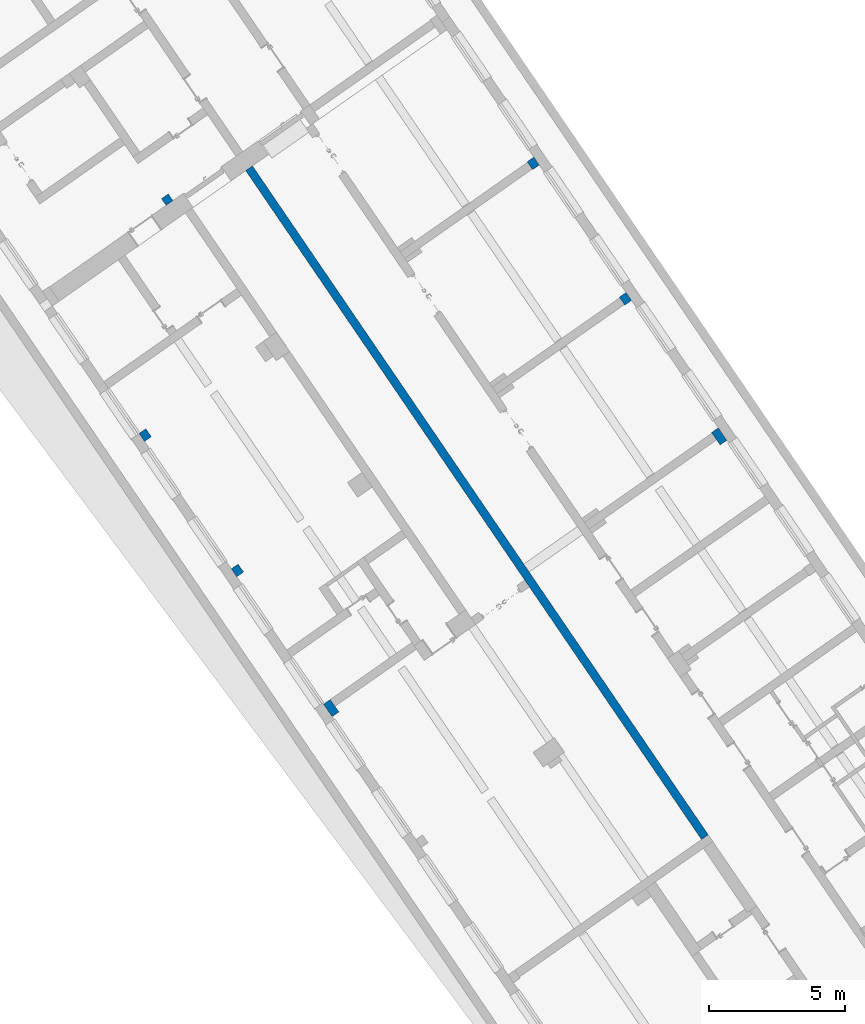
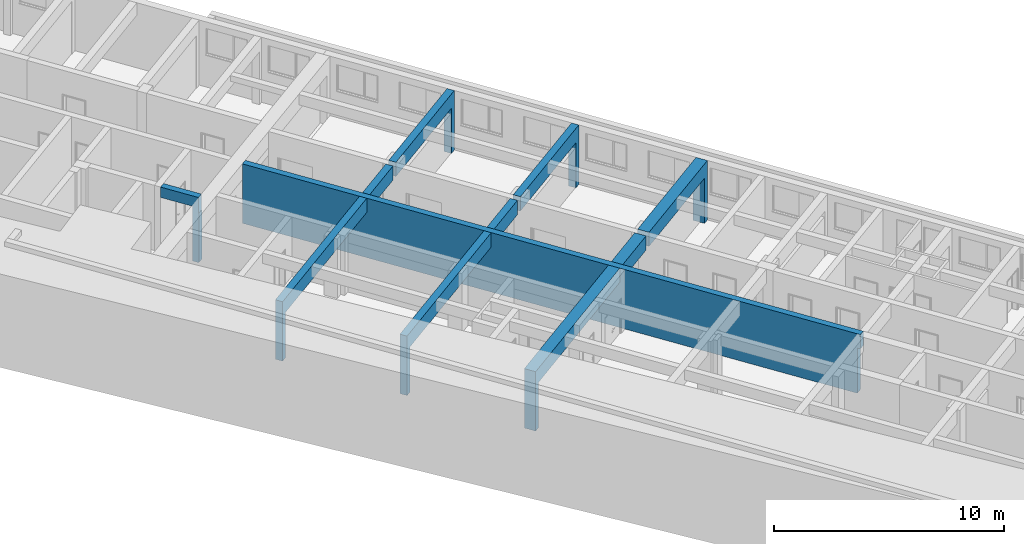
# One storey, part 103 of 112: 5 walls.
"""IFC2X3 building model written with IfcOpenShell, lengths in millimetres."""

import ifcopenshell
import ifcopenshell.guid

model = None  # the IFC model being written
_history = None  # IfcOwnerHistory: only IFC2X3 demands one
_inside = {}  # id of a spatial element -> (the spatial element, [elements in it])
_under = {}  # id of a project, library or spatial element -> (it, [spatial elements below it])
_declared = {}  # id of a project -> (the project, [libraries it declares])
_typed = {}  # id of a type object -> (the type object, [elements of that type])
_made_of = {}  # id of a material, layer set ... -> (it, [elements and type objects made of it])


def new_model(schema):
    """Start an empty IFC model of exactly this schema.

    Asked for "IFC4X3", IfcOpenShell would pick the latest addendum, in which some entities
    have other attributes; the version numbers below select the first issue.
    IFC2X3 requires an IfcOwnerHistory on every rooted entity: one is made here for all.
    """
    global model, _history
    if schema == "IFC4X3":
        model = ifcopenshell.file(schema_version=(4, 3, 0, 0))
    else:
        model = ifcopenshell.file(schema=schema)
    _inside.clear()
    _under.clear()
    _declared.clear()
    _typed.clear()
    _made_of.clear()
    _history = None
    if model.schema == "IFC2X3":
        org = make("IfcOrganization", Name="unknown")
        user = make(
            "IfcPersonAndOrganization",
            ThePerson=make("IfcPerson", FamilyName="unknown"),
            TheOrganization=org,
        )
        app = make(
            "IfcApplication",
            ApplicationDeveloper=org,
            Version="unknown",
            ApplicationFullName="unknown",
            ApplicationIdentifier="unknown",
        )
        _history = make(
            "IfcOwnerHistory",
            OwningUser=user,
            OwningApplication=app,
            ChangeAction="ADDED",
            CreationDate=0,
        )
    return model


def make(cls, **values):
    """One entity of the class cls with the attributes given. An attribute that is None is left unset."""
    return model.create_entity(
        cls, **{name: value for name, value in values.items() if value is not None}
    )


def entity(cls, *values):
    """Any entity or typed value of the class cls, its attributes in the order of the schema. None: left unset."""
    e = model.create_entity(cls)
    for i, value in enumerate(values):
        if value is not None:
            e[i] = value
    return e


def rooted(cls, **values):
    """An entity with a GlobalId (a new one), such as an element, a storey or a relation."""
    return make(cls, GlobalId=ifcopenshell.guid.new(), OwnerHistory=_history, **values)


def si_unit(unit_type, name, prefix=None):
    """IfcSIUnit, for example si_unit("LENGTHUNIT", "METRE", prefix="MILLI")."""
    return make("IfcSIUnit", UnitType=unit_type, Prefix=prefix, Name=name)


def converted_unit(unit_type, name, factor, base, dimensions=None, offset=None):
    """IfcConversionBasedUnit, such as the inch: factor (a typed value) times the base unit."""
    return make(
        "IfcConversionBasedUnit"
        if offset is None
        else "IfcConversionBasedUnitWithOffset",
        ConversionOffset=offset,
        Dimensions=None
        if dimensions is None
        else entity("IfcDimensionalExponents", *dimensions),
        UnitType=unit_type,
        Name=name,
        ConversionFactor=make(
            "IfcMeasureWithUnit", ValueComponent=factor, UnitComponent=base
        ),
    )


def derived_unit(unit_type, elements):
    """IfcDerivedUnit: a product of units, each with its exponent."""
    return make(
        "IfcDerivedUnit",
        Elements=[
            make("IfcDerivedUnitElement", Unit=unit, Exponent=power)
            for unit, power in elements
        ],
        UnitType=unit_type,
    )


def assignment(units):
    """IfcUnitAssignment: the units of a project."""
    return None if units is None else make("IfcUnitAssignment", Units=units)


def point(xyz):
    """IfcCartesianPoint."""
    return None if xyz is None else make("IfcCartesianPoint", Coordinates=xyz)


def direction(xyz):
    """IfcDirection."""
    return None if xyz is None else make("IfcDirection", DirectionRatios=xyz)


def frame(location, z_axis=None, x_axis=None):
    """IfcAxis2Placement3D, a coordinate frame: its origin and axes. An axis left out is left unset."""
    return make(
        "IfcAxis2Placement3D",
        Location=point(location),
        Axis=direction(z_axis),
        RefDirection=direction(x_axis),
    )


def origin():
    """The frame at (0, 0, 0) with its axes left unset."""
    return frame((0.0, 0.0, 0.0))


def place(relative_to, where):
    """IfcLocalPlacement: puts the frame where relative to a parent placement (None: the world)."""
    return make(
        "IfcLocalPlacement", PlacementRelTo=relative_to, RelativePlacement=where
    )


def context(
    kind, dimensions, precision=None, world=None, true_north=None, identifier=None
):
    """IfcGeometricRepresentationContext, for example the 3D "Model" context."""
    return make(
        "IfcGeometricRepresentationContext",
        ContextIdentifier=identifier,
        ContextType=kind,
        CoordinateSpaceDimension=dimensions,
        Precision=precision,
        WorldCoordinateSystem=world,
        TrueNorth=true_north,
    )


def subcontext(parent, identifier, kind, view, scale=None):
    """IfcGeometricRepresentationSubContext, for example "Body" below "Model"."""
    return make(
        "IfcGeometricRepresentationSubContext",
        ContextIdentifier=identifier,
        ContextType=kind,
        ParentContext=parent,
        TargetScale=scale,
        TargetView=view,
    )


def project(units=None, contexts=None):
    """IfcProject with its units and contexts."""
    return rooted(
        "IfcProject",
        Name="project",
        RepresentationContexts=contexts,
        UnitsInContext=assignment(units),
    )


def spatial(cls, under=None, at=None, **own):
    """A site, building, storey or space (cls), placed at a placement, below another one or the project."""
    s = rooted(cls, ObjectPlacement=at, **own)
    if under is not None:
        _under.setdefault(under.id(), (under, []))[1].append(s)
    return s


def faces_of(points, faces, orient=None, outer=None):
    """IfcFace entities. A face is a list of loops; a loop is a list of indices into points, from 0.

    orient and outer hold one flag for each loop. By default every Orientation is true, the
    first loop of a face is its IfcFaceOuterBound and the others are IfcFaceBound.
    """
    made = []
    for i, loops in enumerate(faces):
        bounds = []
        for j, loop in enumerate(loops):
            is_outer = j == 0 if outer is None else outer[i][j]
            bounds.append(
                make(
                    "IfcFaceOuterBound" if is_outer else "IfcFaceBound",
                    Bound=make("IfcPolyLoop", Polygon=[points[k] for k in loop]),
                    Orientation=True if orient is None else orient[i][j],
                )
            )
        made.append(make("IfcFace", Bounds=bounds))
    return made


def faceted_brep(points, faces, orient=None, outer=None, voids=None):
    """IfcFacetedBrep: a solid bounded by flat faces; with voids (closed shells), ...WithVoids."""
    shared = [point(p) for p in points]
    hull = make("IfcClosedShell", CfsFaces=faces_of(shared, faces, orient, outer))
    if voids is None:
        return make("IfcFacetedBrep", Outer=hull)
    return make(
        "IfcFacetedBrepWithVoids",
        Outer=hull,
        Voids=[
            make(cls, CfsFaces=faces_of(shared, fs, o, b)) for cls, fs, o, b in voids
        ],
    )


def shape(context_of_items, identifier, shape_type, items):
    """IfcShapeRepresentation: the items that make up one representation, for example the "Body"."""
    return make(
        "IfcShapeRepresentation",
        ContextOfItems=context_of_items,
        RepresentationIdentifier=identifier,
        RepresentationType=shape_type,
        Items=items,
    )


def material(Name=None, Category=None):
    """IfcMaterial."""
    return make("IfcMaterial", Name=Name, Category=Category)


def layer(
    of_material, thickness, ventilated=None, Name=None, Category=None, Priority=None
):
    """IfcMaterialLayer: one layer of a wall or slab, of a material (None: an air gap)."""
    return make(
        "IfcMaterialLayer",
        Material=of_material,
        LayerThickness=thickness,
        IsVentilated=ventilated,
        Name=Name,
        Category=Category,
        Priority=Priority,
    )


def layer_set(layers, Name=None):
    """IfcMaterialLayerSet."""
    return make("IfcMaterialLayerSet", MaterialLayers=layers, LayerSetName=Name)


def made_of(thing, what):
    """Note that an element or type object is made of a material, layer set ...; save() writes the relation."""
    if what is not None:
        _made_of.setdefault(what.id(), (what, []))[1].append(thing)
    return thing


def type_object(cls, material=None, **own):
    """A type object (cls), such as IfcWallType, which elements share."""
    return made_of(rooted(cls, **own), material)


def element(
    cls,
    number,
    at=None,
    inside=None,
    cuts=None,
    type_object=None,
    material=None,
    context=None,
    identifier="Body",
    shape_type=None,
    held_by="IfcProductDefinitionShape",
    body=None,
    shapes=None,
    **own,
):
    """One element of the class cls, such as IfcWall. Its Tag is "e" and its number.

    at: its placement. inside: the storey or other place that contains it. cuts: it is an
    opening in that element (IfcRelVoidsElement). A single representation is given by context,
    identifier, shape_type and body (its items); several are given by shapes. held_by: the class
    of the entity that holds the representations. save() writes the other relations.
    """
    e = rooted(cls, Tag="e%d" % number, ObjectPlacement=at, **own)
    if body is not None:
        shapes = [shape(context, identifier, shape_type, body)]
    if shapes is not None:
        e.Representation = make(held_by, Representations=shapes)
    if inside is not None:
        _inside.setdefault(inside.id(), (inside, []))[1].append(e)
    if cuts is not None:
        rooted(
            "IfcRelVoidsElement", RelatingBuildingElement=cuts, RelatedOpeningElement=e
        )
    if type_object is not None:
        _typed.setdefault(type_object.id(), (type_object, []))[1].append(e)
    return made_of(e, material)


def aggregate(whole, parts):
    """IfcRelAggregates: a whole, such as a stair, and the parts it consists of."""
    return rooted("IfcRelAggregates", RelatingObject=whole, RelatedObjects=parts)


def save(model, path):
    """Write the relations noted so far, then the file.

    IfcRelAggregates (storeys below a building ...), IfcRelContainedInSpatialStructure (elements
    in a storey), IfcRelDefinesByType, IfcRelAssociatesMaterial and IfcRelDeclares: one each for
    every whole, place, type object, material and project.
    """
    for whole, parts in _under.values():
        aggregate(whole, parts)
    for where, things in _inside.values():
        rooted(
            "IfcRelContainedInSpatialStructure",
            RelatedElements=things,
            RelatingStructure=where,
        )
    for kind, things in _typed.values():
        rooted("IfcRelDefinesByType", RelatedObjects=things, RelatingType=kind)
    for what, things in _made_of.values():
        rooted("IfcRelAssociatesMaterial", RelatedObjects=things, RelatingMaterial=what)
    for by, libraries in _declared.values():
        rooted("IfcRelDeclares", RelatingContext=by, RelatedDefinitions=libraries)
    model.write(path)


model = new_model("IFC2X3")

# Units and contexts
model_context = context("Model", 3, precision=0.01, world=origin(), true_north=direction((6.123031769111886e-17, 1.0)))
body_context = subcontext(model_context, "Body", "Model", "MODEL_VIEW")
ifc_project = project(units=[si_unit("LENGTHUNIT", "METRE", prefix="MILLI"), si_unit("AREAUNIT", "SQUARE_METRE"), si_unit("VOLUMEUNIT", "CUBIC_METRE"), converted_unit("PLANEANGLEUNIT", "DEGREE", entity("IfcRatioMeasure", 0.017453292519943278), si_unit("PLANEANGLEUNIT", "RADIAN"), dimensions=[0, 0, 0, 0, 0, 0, 0]), si_unit("MASSUNIT", "GRAM", prefix="KILO"), derived_unit("MASSDENSITYUNIT", [(si_unit("MASSUNIT", "GRAM", prefix="KILO"), 1), (si_unit("LENGTHUNIT", "METRE"), -3)]), derived_unit("MOMENTOFINERTIAUNIT", [(si_unit("LENGTHUNIT", "METRE"), 4)]), si_unit("TIMEUNIT", "SECOND"), si_unit("FREQUENCYUNIT", "HERTZ"), si_unit("THERMODYNAMICTEMPERATUREUNIT", "DEGREE_CELSIUS"), derived_unit("THERMALTRANSMITTANCEUNIT", [(si_unit("MASSUNIT", "GRAM", prefix="KILO"), 1), (si_unit("THERMODYNAMICTEMPERATUREUNIT", "KELVIN"), -1), (si_unit("TIMEUNIT", "SECOND"), -3)]), derived_unit("THERMALCONDUCTANCEUNIT", [(si_unit("MASSUNIT", "GRAM", prefix="KILO"), 1), (si_unit("LENGTHUNIT", "METRE"), 1), (si_unit("THERMODYNAMICTEMPERATUREUNIT", "KELVIN"), -1), (si_unit("TIMEUNIT", "SECOND"), -3)]), derived_unit("VOLUMETRICFLOWRATEUNIT", [(si_unit("LENGTHUNIT", "METRE"), 3), (si_unit("TIMEUNIT", "SECOND"), -1)]), derived_unit("MASSFLOWRATEUNIT", [(si_unit("MASSUNIT", "GRAM", prefix="KILO"), 1), (si_unit("TIMEUNIT", "SECOND"), -1)]), derived_unit("ROTATIONALFREQUENCYUNIT", [(si_unit("TIMEUNIT", "SECOND"), -1)]), si_unit("ELECTRICCURRENTUNIT", "AMPERE"), si_unit("ELECTRICVOLTAGEUNIT", "VOLT"), si_unit("POWERUNIT", "WATT"), converted_unit("FORCEUNIT", "KIP", entity("IfcRatioMeasure", 2.088543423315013e-05), si_unit("FORCEUNIT", "NEWTON"), dimensions=[1, 1, -2, 0, 0, 0, 0]), si_unit("ILLUMINANCEUNIT", "LUX"), si_unit("LUMINOUSFLUXUNIT", "LUMEN"), si_unit("LUMINOUSINTENSITYUNIT", "CANDELA"), derived_unit("USERDEFINED", [(si_unit("MASSUNIT", "GRAM", prefix="KILO"), -1), (si_unit("LENGTHUNIT", "METRE"), -2), (si_unit("TIMEUNIT", "SECOND"), 3), (si_unit("LUMINOUSFLUXUNIT", "LUMEN"), 1)]), derived_unit("USERDEFINED", [(si_unit("MASSUNIT", "GRAM", prefix="KILO"), 1), (si_unit("LENGTHUNIT", "METRE"), 3), (si_unit("TIMEUNIT", "SECOND"), -3), (si_unit("ELECTRICCURRENTUNIT", "AMPERE"), -2)]), derived_unit("USERDEFINED", [(si_unit("LENGTHUNIT", "METRE"), 2), (si_unit("TIMEUNIT", "SECOND"), -2)]), derived_unit("SOUNDPOWERUNIT", [(si_unit("MASSUNIT", "GRAM", prefix="KILO"), 1), (si_unit("LENGTHUNIT", "METRE"), 2), (si_unit("TIMEUNIT", "SECOND"), -3)]), derived_unit("SOUNDPRESSUREUNIT", [(si_unit("MASSUNIT", "GRAM", prefix="KILO"), 1), (si_unit("LENGTHUNIT", "METRE"), -1), (si_unit("TIMEUNIT", "SECOND"), -2)]), derived_unit("LINEARVELOCITYUNIT", [(si_unit("LENGTHUNIT", "METRE"), 1), (si_unit("TIMEUNIT", "SECOND"), -1)]), si_unit("PRESSUREUNIT", "PASCAL"), derived_unit("USERDEFINED", [(si_unit("LENGTHUNIT", "METRE"), -2), (si_unit("MASSUNIT", "GRAM", prefix="KILO"), 1), (si_unit("TIMEUNIT", "SECOND"), -2)]), derived_unit("LINEARFORCEUNIT", [(si_unit("MASSUNIT", "GRAM", prefix="KILO"), 1), (si_unit("LENGTHUNIT", "METRE"), 1), (si_unit("TIMEUNIT", "SECOND"), -2), (si_unit("LENGTHUNIT", "METRE"), -1)]), derived_unit("PLANARFORCEUNIT", [(si_unit("MASSUNIT", "GRAM", prefix="KILO"), 1), (si_unit("LENGTHUNIT", "METRE"), 1), (si_unit("TIMEUNIT", "SECOND"), -2), (si_unit("LENGTHUNIT", "METRE"), -2)]), derived_unit("SPECIFICHEATCAPACITYUNIT", [(si_unit("LENGTHUNIT", "METRE"), 2), (si_unit("TIMEUNIT", "SECOND"), -2), (si_unit("THERMODYNAMICTEMPERATUREUNIT", "KELVIN"), -1)]), derived_unit("VAPORPERMEABILITYUNIT", [(si_unit("TIMEUNIT", "SECOND"), 1), (si_unit("LENGTHUNIT", "METRE"), -1)]), derived_unit("DYNAMICVISCOSITYUNIT", [(si_unit("MASSUNIT", "GRAM", prefix="KILO"), 1), (si_unit("LENGTHUNIT", "METRE"), -1), (si_unit("TIMEUNIT", "SECOND"), -1)]), derived_unit("THERMALEXPANSIONCOEFFICIENTUNIT", [(si_unit("THERMODYNAMICTEMPERATUREUNIT", "KELVIN"), -1)])], contexts=[model_context])

# Site, building, storey
site_placement = place(None, frame((0.0, 0.0, 0.0), z_axis=(0.0, 0.0, 1.0), x_axis=(0.8191520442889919, 0.5735764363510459, 0.0)))
site = spatial("IfcSite", under=ifc_project, at=site_placement, Name="Default", CompositionType="ELEMENT")
building_placement = place(site_placement, origin())
building = spatial("IfcBuilding", under=site, at=building_placement, CompositionType="ELEMENT")
storey_placement = place(building_placement, frame((0.0, 0.0, -3600.0)))
storey = spatial("IfcBuildingStorey", under=building, at=storey_placement, Name="0.UG -3.60", CompositionType="ELEMENT", Elevation=-3600.0000000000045)

# Walls
ifc_material = material(Name="Analytical Wall Surface_CJC")
ifc_layer_1 = layer(ifc_material, 300.0)
ifc_layer_set_1 = layer_set([ifc_layer_1], Name="Basic Wall:Wand_Innen_30")
wall_type_1 = type_object("IfcWallType", Name="Basic Wall:Wand_Innen_30", PredefinedType="STANDARD", material=ifc_layer_set_1)
wall_1_placement = place(storey_placement, frame((-214485.72137381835, 73421.35891435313, 300.0), z_axis=(0.0, 0.0, 1.0), x_axis=(0.012729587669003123, 0.9999189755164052, 0.0)))
element("IfcWall", 1, at=wall_1_placement, inside=storey, type_object=wall_type_1, Name="Basic Wall:Wand_Innen_30", ObjectType="Basic Wall:Wand_Innen_30", context=body_context, shape_type="Brep", body=[
    faceted_brep([(151.92174753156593, -150.0, 0.0), (29804.324318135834, -150.0, 0.0), (29804.32431813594, -150.0, 3150.0), (24153.866492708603, -150.0, 3150.0), (23803.838131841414, -150.0, 3150.0), (18153.380306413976, -150.0, 3150.0), (17803.351945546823, -150.0, 3150.0), (12152.894120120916, -150.0, 3150.0), (11802.86575925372, -150.0, 3150.0), (11602.849553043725, -150.0, 3150.0), (6152.407933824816, -150.0, 3150.0), (5802.379572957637, -150.0, 3150.0), (0.0, -150.0, 3150.0), (0.0, -150.0, 2400.0), (151.9217475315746, -150.0, 2400.0), (148.10256178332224, 150.0, 0.0), (148.10256178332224, 150.0, 2400.0), (0.0, 150.0, 2400.0), (0.0, 150.0, 3150.0), (5798.560387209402, 150.0, 3150.0), (6148.588748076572, 150.0, 3150.0), (11349.010109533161, 150.0, 3150.0), (11599.03036729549, 150.0, 3150.0), (11649.034418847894, 150.0, 3150.0), (12149.074934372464, 150.0, 3150.0), (17799.53275979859, 150.0, 3150.0), (18149.56112066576, 150.0, 3150.0), (23800.01894609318, 150.0, 3150.0), (24150.04730696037, 150.0, 3150.0), (29800.50513238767, 150.0, 3150.0), (29800.50513238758, 150.0, 0.0), (11649.034418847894, 150.0, 0.0), (11349.010109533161, 150.0, 0.0)], [[[0, 1, 2, 3, 4, 5, 6, 7, 8, 9, 10, 11, 12, 13, 14]], [[15, 16, 17, 18, 19, 20, 21, 22, 23, 24, 25, 26, 27, 28, 29, 30, 31, 32]], [[1, 0, 15, 32, 31, 30]], [[12, 11, 10, 9, 8, 7, 6, 5, 4, 3, 2, 29, 28, 27, 26, 25, 24, 23, 22, 21, 20, 19, 18]], [[1, 30, 29, 2]], [[13, 12, 18, 17]], [[0, 14, 16, 15]], [[13, 17, 16, 14]]]),
])
wall_2_placement = place(storey_placement, frame((-217223.60629818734, 103849.44947620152, 0.0), z_axis=(0.0, 0.0, 1.0), x_axis=(0.01272958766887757, 0.9999189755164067, 0.0)))
element("IfcWall", 2, at=wall_2_placement, inside=storey, type_object=wall_type_1, Name="Basic Wall:Wand_Innen_30", ObjectType="Basic Wall:Wand_Innen_30", context=body_context, shape_type="Brep", body=[
    faceted_brep([(3.81918574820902, -150.0, 0.0), (298.8430899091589, -150.0, 0.0), (298.8430899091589, -150.0, 2900.0), (1848.9686880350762, -150.0, 2900.0), (1848.9686880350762, -150.0, 3450.0), (23.820806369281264, -150.0, 3450.0), (23.820806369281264, -150.0, 2600.0), (3.81918574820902, -150.0, 2600.0), (0.0, 150.0, 0.0), (0.0, 150.0, 2600.0), (20.001620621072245, 150.0, 2600.0), (20.001620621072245, 150.0, 3450.0), (1845.1495022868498, 150.0, 3450.0), (1845.1495022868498, 150.0, 2900.0), (298.84308990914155, 150.0, 2900.0), (298.84308990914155, 150.0, 0.0)], [[[0, 1, 2, 3, 4, 5, 6, 7]], [[8, 9, 10, 11, 12, 13, 14, 15]], [[0, 7, 9, 8]], [[6, 5, 11, 10]], [[1, 0, 8, 15]], [[5, 4, 12, 11]], [[6, 10, 9, 7]], [[2, 1, 15, 14]], [[3, 2, 14, 13]], [[4, 3, 13, 12]]]),
])
ifc_layer_2 = layer(ifc_material, 350.0)
ifc_layer_set_2 = layer_set([ifc_layer_2], Name="Basic Wall:Wand_Innen_35")
wall_type_2 = type_object("IfcWallType", Name="Basic Wall:Wand_Innen_35", PredefinedType="STANDARD", material=ifc_layer_set_2)
wall_3_placement = place(storey_placement, frame((-205327.57288816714, 97396.35891435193, 300.0), z_axis=(0.0, 0.0, 1.0), x_axis=(-1.0, 0.0, 0.0)))
element("IfcWall", 3, at=wall_3_placement, inside=storey, type_object=wall_type_2, Name="Basic Wall:Wand_Innen_35", ObjectType="Basic Wall:Wand_Innen_35", context=body_context, shape_type="Brep", body=[
    faceted_brep([(0.0, -175.0, 0.0), (302.21157299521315, -175.0, 0.0), (302.21157299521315, -175.0, 2400.0), (5349.082777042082, -175.0, 2400.0), (6000.473229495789, -175.0, 2400.0), (6000.473229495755, -175.0, 3150.0), (5349.082777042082, -175.0, 3150.0), (3200.246342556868, -175.0, 3150.0), (2900.2220332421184, -175.0, 3150.0), (0.0, -175.0, 3150.0), (4.455731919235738, 175.0, 0.0), (302.21157299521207, 175.0, 0.0), (302.2115729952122, 150.0, 0.0), (302.2115729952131, -150.0, 0.0), (302.21157299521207, 175.0, 2400.0), (5349.082777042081, 175.0, 2400.0), (6004.928946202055, 175.0, 2400.0), (4.455731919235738, 175.0, 3150.0), (6004.928946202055, 175.0, 3150.0), (5349.082777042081, 175.0, 3150.0), (3204.702059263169, 175.0, 3150.0), (2904.677749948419, 175.0, 3150.0)], [[[0, 1, 2, 3, 4, 5, 6, 7, 8, 9]], [[1, 0, 10, 11, 12, 13]], [[2, 1, 13, 12, 11, 14]], [[2, 14, 15, 16, 4, 3]], [[0, 9, 17, 10]], [[5, 4, 16, 18]], [[17, 9, 8, 7, 6, 5, 18, 19, 20, 21]], [[11, 10, 17, 21, 20, 19, 18, 16, 15, 14]]]),
    faceted_brep([(17353.63294491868, 175.0, 0.0), (17353.63294491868, 175.0, 2400.0), (12351.287810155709, 175.0, 2400.0), (11401.287810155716, 175.0, 2400.0), (9005.171904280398, 175.0, 2400.0), (9005.171904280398, 175.0, 3150.0), (11401.287810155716, 175.0, 3150.0), (12351.287810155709, 175.0, 3150.0), (14405.052240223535, 175.0, 3150.0), (14705.075616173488, 175.0, 3150.0), (17655.823649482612, 175.0, 3150.0), (17655.823649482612, 175.0, 0.0), (17651.367932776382, -175.0, 3150.0), (9000.716187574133, -175.0, 3150.0), (11401.287810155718, -175.0, 3150.0), (12351.28781015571, -175.0, 3150.0), (14400.682903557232, -175.0, 3150.0), (14700.706279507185, -175.0, 3150.0), (17353.632944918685, -175.0, 0.0), (17353.632944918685, -175.0, 2400.0), (17651.367932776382, -175.0, 0.0), (9000.716187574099, -175.0, 2400.0), (12351.28781015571, -175.0, 2400.0), (11401.287810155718, -175.0, 2400.0)], [[[0, 1, 2, 3, 4, 5, 6, 7, 8, 9, 10, 11]], [[12, 10, 9, 8, 7, 6, 5, 13, 14, 15, 16, 17]], [[18, 19, 1, 0]], [[20, 18, 0, 11]], [[12, 20, 11, 10]], [[21, 13, 5, 4]], [[1, 19, 22, 23, 21, 4, 3, 2]], [[19, 18, 20, 12, 17, 16, 15, 14, 13, 21, 23, 22]]]),
    faceted_brep([(8700.691878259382, -175.0, 3150.0), (8700.691878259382, -175.0, 2400.0), (8705.147594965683, 175.0, 2400.0), (8705.147594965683, 175.0, 3150.0), (6300.497538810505, -175.0, 2400.0), (6300.49753881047, -175.0, 3150.0), (6304.953255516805, 175.0, 3150.0), (6304.953255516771, 175.0, 2400.0)], [[[0, 1, 2, 3]], [[4, 5, 6, 7]], [[2, 1, 4, 7]], [[0, 3, 6, 5]], [[3, 2, 7, 6]], [[1, 0, 5, 4]]]),
])
wall_4_placement = place(storey_placement, frame((-205403.9568639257, 91396.35891435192, 300.0), z_axis=(0.0, 0.0, 1.0), x_axis=(-1.0, 0.0, 0.0)))
element("IfcWall", 4, at=wall_4_placement, inside=storey, type_object=wall_type_2, Name="Basic Wall:Wand_Innen_35", ObjectType="Basic Wall:Wand_Innen_35", context=body_context, shape_type="Brep", body=[
    faceted_brep([(0.0, -175.0, 0.0), (302.2113122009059, -175.0, 0.0), (302.2113122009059, -175.0, 2389.7777478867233), (5352.698801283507, -175.0, 2389.7777478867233), (6000.472968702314, -175.0, 2389.7777478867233), (6000.472968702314, -175.0, 3150.0), (5352.698801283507, -175.0, 3150.0), (3200.2460817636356, -175.0, 3150.0), (2900.221772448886, -175.0, 3150.0), (0.0, -175.0, 3150.0), (4.455731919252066, 175.0, 0.0), (302.21131220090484, 175.0, 0.0), (302.21131220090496, 150.0, 0.0), (302.21131220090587, -150.0, 0.0), (302.21131220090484, 175.0, 2389.7777478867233), (5352.698801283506, 175.0, 2389.7777478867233), (6004.928685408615, 175.0, 2389.7777478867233), (4.455731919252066, 175.0, 3150.0), (6004.928685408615, 175.0, 3150.0), (5352.698801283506, 175.0, 3150.0), (3204.7017984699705, 175.0, 3150.0), (2904.6774891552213, 175.0, 3150.0)], [[[0, 1, 2, 3, 4, 5, 6, 7, 8, 9]], [[1, 0, 10, 11, 12, 13]], [[2, 1, 13, 12, 11, 14]], [[2, 14, 15, 16, 4, 3]], [[0, 9, 17, 10]], [[5, 4, 16, 18]], [[17, 9, 8, 7, 6, 5, 18, 19, 20, 21]], [[11, 10, 17, 21, 20, 19, 18, 16, 15, 14]]]),
    faceted_brep([(17353.632684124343, 175.0, 0.0), (17353.632684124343, 175.0, 2389.7777478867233), (12353.197281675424, 175.0, 2389.7777478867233), (11705.390562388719, 175.0, 2389.7777478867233), (11405.366253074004, 175.0, 2389.7777478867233), (11403.197281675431, 175.0, 2389.7777478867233), (9005.171643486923, 175.0, 2389.7777478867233), (9005.171643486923, 175.0, 3150.0), (11403.197281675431, 175.0, 3150.0), (11405.36625307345, 175.0, 3150.0), (11705.390562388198, 175.0, 3150.0), (12353.197281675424, 175.0, 3150.0), (14403.571178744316, 175.0, 3150.0), (14703.594554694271, 175.0, 3150.0), (17655.823388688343, 175.0, 3150.0), (17655.823388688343, 175.0, 0.0), (17651.36767198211, -175.0, 3150.0), (9000.715926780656, -175.0, 3150.0), (11400.910536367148, -175.0, 3150.0), (11700.934845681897, -175.0, 3150.0), (12353.197281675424, -175.0, 3150.0), (14399.201842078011, -175.0, 3150.0), (14699.225218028, -175.0, 3150.0), (17353.632684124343, -175.0, 0.0), (17353.632684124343, -175.0, 2389.7777478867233), (17651.36767198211, -175.0, 0.0), (9000.715926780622, -175.0, 2389.7777478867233), (12353.197281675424, -175.0, 2389.7777478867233), (11700.934845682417, -175.0, 2389.7777478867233), (11400.910536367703, -175.0, 2389.7777478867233)], [[[0, 1, 2, 3, 4, 5, 6, 7, 8, 9, 10, 11, 12, 13, 14, 15]], [[16, 14, 13, 12, 11, 10, 9, 8, 7, 17, 18, 19, 20, 21, 22]], [[23, 24, 1, 0]], [[25, 23, 0, 15]], [[16, 25, 15, 14]], [[26, 17, 7, 6]], [[1, 24, 27, 28, 29, 26, 6, 5, 4, 3, 2]], [[24, 23, 25, 16, 22, 21, 20, 19, 18, 17, 26, 29, 28, 27]]]),
    faceted_brep([(8700.691617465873, -175.0, 3150.0), (8700.691617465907, -175.0, 2389.7777478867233), (8705.147334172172, 175.0, 2389.7777478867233), (8705.147334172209, 175.0, 3150.0), (6300.497278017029, -175.0, 2389.7777478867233), (6300.497278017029, -175.0, 3150.0), (6304.9529947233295, 175.0, 3150.0), (6304.9529947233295, 175.0, 2389.7777478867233), (6302.698801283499, -2.068641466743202, 2389.7777478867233), (6302.698801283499, -175.0, 2389.7777478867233), (6302.698801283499, -175.0, 3150.0)], [[[0, 1, 2, 3]], [[4, 5, 6, 7, 8]], [[2, 1, 9, 4, 8, 7]], [[0, 3, 6, 5, 10]], [[3, 2, 7, 6]], [[1, 0, 10, 5, 4, 9]]]),
])
ifc_layer_3 = layer(ifc_material, 550.0)
ifc_layer_set_3 = layer_set([ifc_layer_3], Name="Basic Wall:Wand_Innen_55")
wall_type_3 = type_object("IfcWallType", Name="Basic Wall:Wand_Innen_55", PredefinedType="STANDARD", material=ifc_layer_set_3)
wall_5_placement = place(storey_placement, frame((-205480.34083968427, 85296.35891435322, 300.0), z_axis=(0.0, 0.0, 1.0), x_axis=(-1.0, 0.0, 0.0)))
element("IfcWall", 5, at=wall_5_placement, inside=storey, type_object=wall_type_3, Name="Basic Wall:Wand_Innen_55", ObjectType="Basic Wall:Wand_Innen_55", context=body_context, shape_type="Brep", body=[
    faceted_brep([(0.0, -275.0, 0.0), (302.2110514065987, -275.0, 0.0), (302.2110514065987, -275.0, 2400.0), (5352.6985404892, -275.0, 2400.0), (6000.472707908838, -275.0, 2400.0), (6000.472707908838, -275.0, 3150.0), (5352.6985404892, -275.0, 3150.0), (3200.2458209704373, -275.0, 3150.0), (2900.2215116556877, -275.0, 3150.0), (0.0, -275.0, 3150.0), (7.001864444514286, 275.0, 0.0), (302.211051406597, 275.0, 0.0), (302.21105140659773, 50.0, 0.0), (302.21105140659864, -250.0, 0.0), (302.211051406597, 275.0, 2400.0), (6007.474548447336, 275.0, 2400.0), (6006.838017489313, 225.0, 2400.0), (7.001864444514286, 275.0, 3150.0), (6007.474548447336, 275.0, 3150.0), (3207.2476615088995, 275.0, 3150.0), (2907.22335219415, 275.0, 3150.0)], [[[0, 1, 2, 3, 4, 5, 6, 7, 8, 9]], [[1, 0, 10, 11, 12, 13]], [[2, 1, 13, 12, 11, 14]], [[2, 14, 15, 16, 4, 3]], [[0, 9, 17, 10]], [[5, 4, 16, 15, 18]], [[17, 9, 8, 7, 6, 5, 18, 19, 20]], [[11, 10, 17, 20, 19, 18, 15, 14]]]),
    faceted_brep([(17353.632423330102, 275.0, 0.0), (17353.632423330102, 275.0, 2400.0), (9007.717506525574, 275.0, 2400.0), (9007.717506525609, 275.0, 3150.0), (11407.912116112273, 275.0, 3150.0), (11707.93642542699, 275.0, 3150.0), (14408.155209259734, 275.0, 3150.0), (14708.179518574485, 275.0, 3150.0), (17658.369251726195, 275.0, 3150.0), (17658.369251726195, 275.0, 0.0), (17651.367411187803, -275.0, 3150.0), (9000.715665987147, -275.0, 3150.0), (11400.910275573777, -275.0, 3150.0), (11700.934584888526, -275.0, 3150.0), (14397.720780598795, -275.0, 3150.0), (14697.744156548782, -275.0, 3150.0), (17353.632423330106, -275.0, 0.0), (17353.632423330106, -275.0, 2400.0), (17353.632423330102, 25.0, 2400.0), (17353.632423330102, 25.0, 0.0), (17651.367411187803, -275.0, 0.0), (9000.715665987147, -275.0, 2400.0), (13701.09664698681, -275.0, 2400.0)], [[[0, 1, 2, 3, 4, 5, 6, 7, 8, 9]], [[10, 8, 7, 6, 5, 4, 3, 11, 12, 13, 14, 15]], [[16, 17, 18, 1, 0, 19]], [[20, 16, 19, 0, 9]], [[10, 20, 9, 8]], [[21, 11, 3, 2]], [[1, 18, 17, 22, 21, 2]], [[17, 16, 20, 10, 15, 14, 13, 12, 11, 21, 22]]]),
    faceted_brep([(8700.69135667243, -275.0, 3150.0), (8700.691356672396, -275.0, 2400.0), (8707.69319721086, 275.0, 2400.0), (8707.69319721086, 275.0, 3150.0), (6300.497017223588, -275.0, 2400.0), (6300.497017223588, -275.0, 3150.0), (6307.498857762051, 275.0, 3150.0), (6307.498857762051, 275.0, 2400.0), (6302.698540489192, -275.0, 3150.0)], [[[0, 1, 2, 3]], [[4, 5, 6, 7]], [[2, 1, 4, 7]], [[0, 3, 6, 5, 8]], [[3, 2, 7, 6]], [[1, 0, 8, 5, 4]]]),
])

save(model, "model.ifc")
